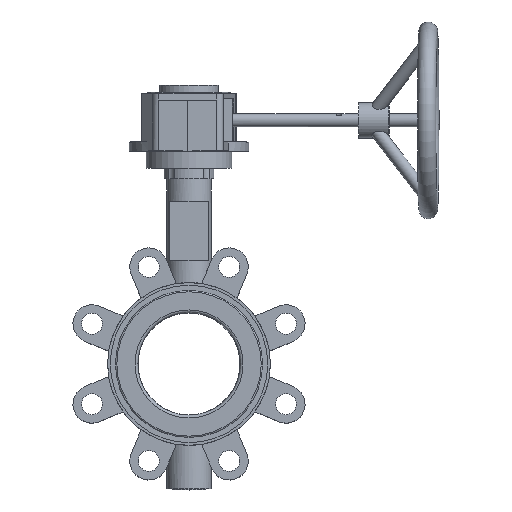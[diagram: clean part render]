
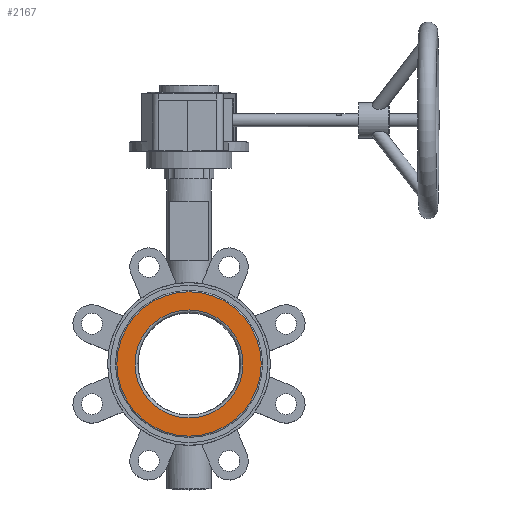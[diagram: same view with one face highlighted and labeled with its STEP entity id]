
A CAD part, top view. The second image highlights one B-rep face of the part: STEP entity #2167.
In plain terms, the highlighted planar face has unit normal (0, 0, 1) as drawn and (-1, 0, 0) by its records, which use the part's own axes.
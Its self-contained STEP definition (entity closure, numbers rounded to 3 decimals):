
#16 = AXIS2_PLACEMENT_3D ( 'NONE', #5817, #5703, #7368 ) ;
#686 = DIRECTION ( 'NONE',  ( -1., 0., 0. ) ) ;
#729 = AXIS2_PLACEMENT_3D ( 'NONE', #8249, #686, #1428 ) ;
#760 = EDGE_CURVE ( 'NONE', #8294, #8294, #1802, .T. ) ;
#1281 = EDGE_CURVE ( 'NONE', #4911, #4911, #1725, .T. ) ;
#1428 = DIRECTION ( 'NONE',  ( 0., 0., 1. ) ) ;
#1725 = CIRCLE ( 'NONE', #9884, 41.14 ) ;
#1802 = CIRCLE ( 'NONE', #729, 55. ) ;
#1916 = DIRECTION ( 'NONE',  ( -1., 0., 0. ) ) ;
#2027 = PLANE ( 'NONE',  #16 ) ;
#2167 = ADVANCED_FACE ( 'NONE', ( #8998, #6484 ), #2027, .F. ) ;
#3347 = CARTESIAN_POINT ( 'NONE',  ( -25., 0., 41.14 ) ) ;
#4911 = VERTEX_POINT ( 'NONE', #3347 ) ;
#5703 = DIRECTION ( 'NONE',  ( 1., 0., 0. ) ) ;
#5817 = CARTESIAN_POINT ( 'NONE',  ( -25., 0., 0. ) ) ;
#6015 = ORIENTED_EDGE ( 'NONE', *, *, #1281, .F. ) ;
#6378 = CARTESIAN_POINT ( 'NONE',  ( -25., 0., 0. ) ) ;
#6484 = FACE_OUTER_BOUND ( 'NONE', #6610, .T. ) ;
#6610 = EDGE_LOOP ( 'NONE', ( #6673 ) ) ;
#6673 = ORIENTED_EDGE ( 'NONE', *, *, #760, .T. ) ;
#7368 = DIRECTION ( 'NONE',  ( 0., 0., -1. ) ) ;
#7652 = EDGE_LOOP ( 'NONE', ( #6015 ) ) ;
#7964 = DIRECTION ( 'NONE',  ( 0., 0., 1. ) ) ;
#8249 = CARTESIAN_POINT ( 'NONE',  ( -25., 0., 0. ) ) ;
#8294 = VERTEX_POINT ( 'NONE', #9474 ) ;
#8998 = FACE_BOUND ( 'NONE', #7652, .T. ) ;
#9474 = CARTESIAN_POINT ( 'NONE',  ( -25., 0., 55. ) ) ;
#9884 = AXIS2_PLACEMENT_3D ( 'NONE', #6378, #1916, #7964 ) ;
